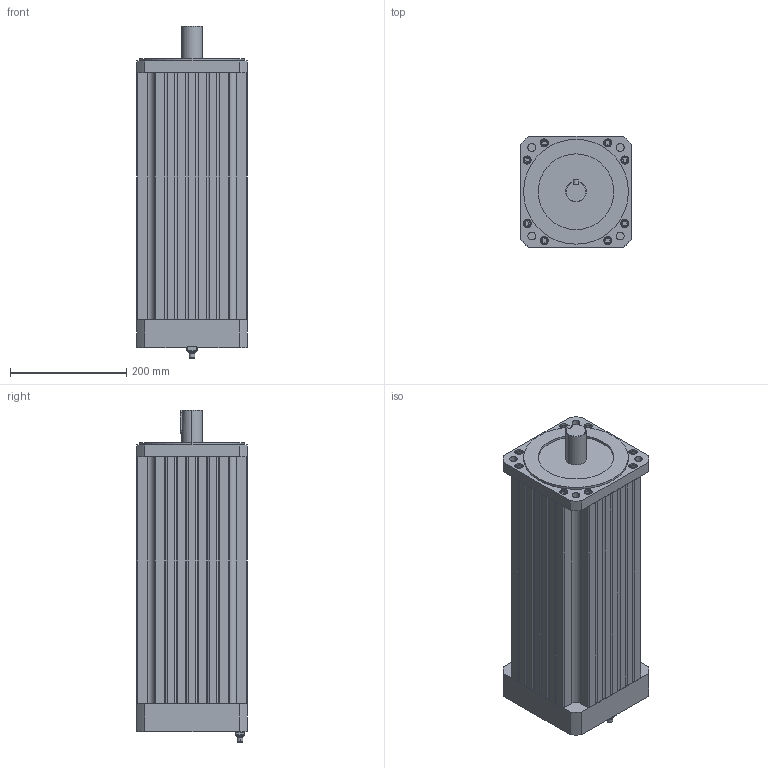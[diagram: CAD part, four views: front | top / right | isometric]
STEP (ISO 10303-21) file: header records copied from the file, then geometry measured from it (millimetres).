
FILE_DESCRIPTION (( 'STEP AP203' ), '1' );
FILE_NAME ('BTS190-55D3AC-EXD.STEP', '2023-05-24T05:45:44', ( 'Admin' ), ( '' ), 'SwSTEP 2.0', 'SolidWorks 2021', '' );
FILE_SCHEMA (( 'CONFIG_CONTROL_DESIGN' ));
Length unit declared in the file: millimetre
Products named in the file (1): BTS190-55D3AC-EXD
Bounding box: 190 x 190 x 570 mm (x, y, z)
Volume: 16135205.9 mm3; surface area: 624515.6 mm2
Topology: 15 solids, 16 shells, 516 faces, 1248 edges, 804 vertices
Faces by surface type: plane 287, cylinder 174, torus 34, cone 21
Entity records: 15048 total; most frequent: DIRECTION 2679, CARTESIAN_POINT 2595, ORIENTED_EDGE 2460, EDGE_CURVE 1230, AXIS2_PLACEMENT_3D 936, LINE 807, VECTOR 807, VERTEX_POINT 804
